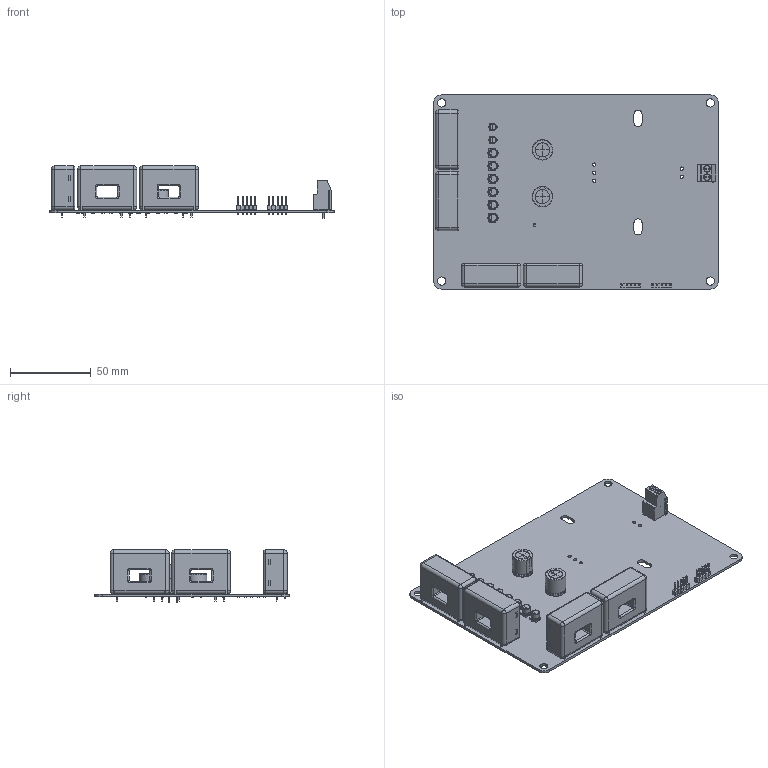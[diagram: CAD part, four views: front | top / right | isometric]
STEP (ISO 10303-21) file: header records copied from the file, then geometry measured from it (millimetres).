
FILE_DESCRIPTION(('KiCad electronic assembly'),'2;1');
FILE_NAME('Sensor_LEM_I.step','2023-09-15T23:16:54',('An Author'),( 'A Company'),'Open CASCADE STEP processor 6.9', 'KiCad to STEP converter','Unknown');
FILE_SCHEMA(('AUTOMOTIVE_DESIGN { 1 0 10303 214 1 1 1 1 }'));
Length unit declared in the file: millimetre
Products named in the file (18): Open CASCADE STEP translator 6.9 1; CP_Radial_D12.5mm_P5.00mm; SOLID; CP_Elec_4x5.4; CP_Elec_5x5.4; LED_0805_2012Metric; PinHeader_1x05_P2.54mm_Vertical; TerminalBlock_Phoenix_MKDS-3-2-5.08_1x02_P5.08mm_Horizontal; R_0805_2012Metric; LEM_LA25-P; COMPOUND
Assembly tree (56 placements, depth 3):
  Open CASCADE STEP translator 6.9 1
    CP_Radial_D12.5mm_P5.00mm  x2
      SOLID
    CP_Elec_4x5.4  x2
      SOLID
    CP_Elec_5x5.4  x6
      SOLID
    LED_0805_2012Metric
      SOLID
    PinHeader_1x05_P2.54mm_Vertical  x2
      SOLID
    TerminalBlock_Phoenix_MKDS-3-2-5.08_1x02_P5.08mm_Horizontal
      SOLID
    R_0805_2012Metric  x29
      SOLID
    LEM_LA25-P  x4
      SOLID
    COMPOUND
Bounding box: 176 x 120 x 32.2 mm (x, y, z)
Volume: 90469.6 mm3; surface area: 64689.5 mm2
Topology: 48 solids, 50 shells, 2053 faces, 5188 edges, 3288 vertices
Faces by surface type: plane 1398, cylinder 495, torus 84, bspline 40, revolution 20, sphere 16
Full cylindrical faces by diameter (mm): 0.9 x4, 1 x10, 1.2 x16, 1.3 x2, 2 x5, 3.8 x2, 4 x6, 5 x16
Entity records: 44120 total; most frequent: CARTESIAN_POINT 9278, DIRECTION 5835, LINE 3725, VECTOR 3725, ORIENTED_EDGE 2986, PCURVE 2986, DEFINITIONAL_REPRESENTATION 2986, EDGE_CURVE 1493
